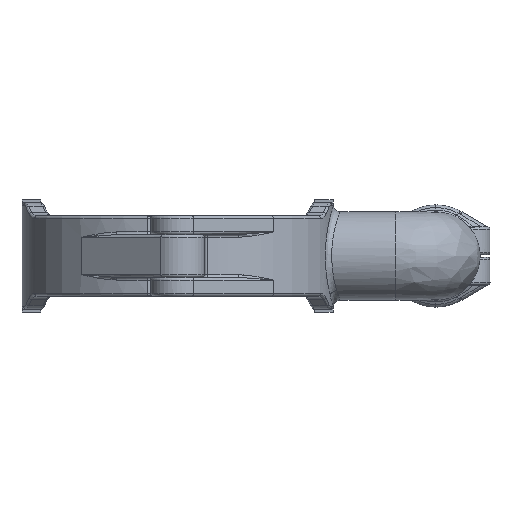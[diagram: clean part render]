
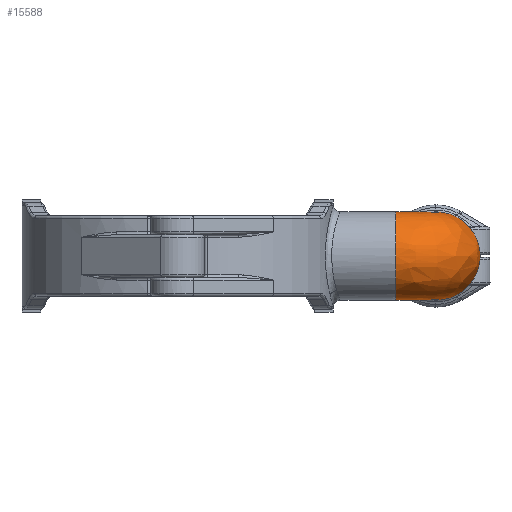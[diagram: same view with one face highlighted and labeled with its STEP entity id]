
A CAD part, front view. The second image highlights one B-rep face of the part: STEP entity #15588.
In plain terms, the highlighted free-form (B-spline) face has degree [3, 3] with [4, 7] control points.
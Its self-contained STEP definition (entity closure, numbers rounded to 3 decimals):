
#4429=CARTESIAN_POINT('',(75.274,84.244,11.997));
#4511=CARTESIAN_POINT('',(75.274,72.562,
0.));
#4512=DIRECTION('',(-1.,0.,0.));
#4513=DIRECTION('',(0.,0.,-1.));
#4514=AXIS2_PLACEMENT_3D('',#4511,#4512,#4513);
#4519=CARTESIAN_POINT('',(75.274,72.562,
0.));
#4520=DIRECTION('',(-1.,0.,0.));
#4521=DIRECTION('',(0.,0.,1.));
#4522=AXIS2_PLACEMENT_3D('',#4519,#4520,#4521);
#4527=CARTESIAN_POINT('',(75.274,84.244,11.997));
#4528=CARTESIAN_POINT('',(75.646,84.327,11.916));
#4529=CARTESIAN_POINT('',(76.339,84.576,11.787));
#4530=CARTESIAN_POINT('',(77.207,85.118,11.694));
#4531=CARTESIAN_POINT('',(77.967,85.886,11.696));
#4532=CARTESIAN_POINT('',(78.491,86.741,11.791));
#4533=CARTESIAN_POINT('',(78.733,87.421,11.918));
#4534=CARTESIAN_POINT('',(78.814,87.785,11.997));
#4539=CARTESIAN_POINT('',(90.496,87.784,
0.));
#4540=DIRECTION('',(0.,1.,0.));
#4541=DIRECTION('',(-0.698,0.,0.716));
#4542=AXIS2_PLACEMENT_3D('',#4539,#4540,#4541);
#4547=CARTESIAN_POINT('',(90.496,87.784,
0.));
#4548=DIRECTION('',(0.,1.,0.));
#4549=DIRECTION('',(0.,0.,1.));
#4550=AXIS2_PLACEMENT_3D('',#4547,#4548,#4549);
#4555=CARTESIAN_POINT('',(90.496,87.784,
0.));
#4556=DIRECTION('',(0.,1.,0.));
#4557=DIRECTION('',(0.,0.,-1.));
#4558=AXIS2_PLACEMENT_3D('',#4555,#4556,#4557);
#4563=CARTESIAN_POINT('',(78.814,87.785,-11.997));
#4564=CARTESIAN_POINT('',(78.731,87.413,-11.916));
#4565=CARTESIAN_POINT('',(78.482,86.719,-11.787));
#4566=CARTESIAN_POINT('',(77.94,85.851,-11.694));
#4567=CARTESIAN_POINT('',(77.172,85.092,-11.696));
#4568=CARTESIAN_POINT('',(76.317,84.567,-11.791));
#4569=CARTESIAN_POINT('',(75.637,84.325,-11.918));
#4570=CARTESIAN_POINT('',(75.274,84.244,-11.997));
#4575=CARTESIAN_POINT('',(75.274,72.562,
0.));
#4576=DIRECTION('',(-1.,0.,0.));
#4577=DIRECTION('',(0.,0.698,-0.716));
#4578=AXIS2_PLACEMENT_3D('',#4575,#4576,#4577);
#10175=CARTESIAN_POINT('',(75.274,72.562,
-16.745));
#10176=VERTEX_POINT('',#10175);
#10177=CARTESIAN_POINT('',(75.274,84.244,
-11.997));
#10178=VERTEX_POINT('',#10177);
#10181=VERTEX_POINT('',#4429);
#10182=CARTESIAN_POINT('',(75.274,72.562,16.745));
#10183=VERTEX_POINT('',#10182);
#10184=VERTEX_POINT('',#4534);
#10185=CARTESIAN_POINT('',(90.496,87.784,16.745));
#10186=VERTEX_POINT('',#10185);
#10187=CARTESIAN_POINT('',(90.496,87.784,-16.745));
#10188=VERTEX_POINT('',#10187);
#10189=CARTESIAN_POINT('',(78.814,87.785,
-11.997));
#10190=VERTEX_POINT('',#10189);
#15544=CARTESIAN_POINT('',(77.454,87.947,10.51));
#15545=CARTESIAN_POINT('',(89.321,88.833,25.271));
#15546=CARTESIAN_POINT('',(107.153,90.165,18.961));
#15547=CARTESIAN_POINT('',(107.153,90.165,
0.));
#15548=CARTESIAN_POINT('',(107.153,90.165,
-18.961));
#15549=CARTESIAN_POINT('',(89.321,88.833,
-25.271));
#15550=CARTESIAN_POINT('',(77.454,87.947,
-10.51));
#15551=CARTESIAN_POINT('',(77.561,86.514,10.51));
#15552=CARTESIAN_POINT('',(90.011,79.597,25.271));
#15553=CARTESIAN_POINT('',(108.717,69.204,18.961));
#15554=CARTESIAN_POINT('',(108.717,69.204,
0.));
#15555=CARTESIAN_POINT('',(108.717,69.204,
-18.961));
#15556=CARTESIAN_POINT('',(90.011,79.597,
-25.271));
#15557=CARTESIAN_POINT('',(77.561,86.514,
-10.51));
#15558=CARTESIAN_POINT('',(76.544,85.497,10.51));
#15559=CARTESIAN_POINT('',(83.462,73.047,25.271));
#15560=CARTESIAN_POINT('',(93.855,54.341,18.961));
#15561=CARTESIAN_POINT('',(93.855,54.341,
0.));
#15562=CARTESIAN_POINT('',(93.855,54.341,
-18.961));
#15563=CARTESIAN_POINT('',(83.462,73.047,
-25.271));
#15564=CARTESIAN_POINT('',(76.544,85.497,
-10.51));
#15565=CARTESIAN_POINT('',(75.111,85.604,10.51));
#15566=CARTESIAN_POINT('',(74.225,73.737,25.271));
#15567=CARTESIAN_POINT('',(72.894,55.905,18.961));
#15568=CARTESIAN_POINT('',(72.894,55.905,
0.));
#15569=CARTESIAN_POINT('',(72.894,55.905,
-18.961));
#15570=CARTESIAN_POINT('',(74.225,73.737,
-25.271));
#15571=CARTESIAN_POINT('',(75.111,85.604,
-10.51));
#15572=(BOUNDED_SURFACE()B_SPLINE_SURFACE(3,3,((#15544,#15545,#15546,#15547,
#15548,#15549,#15550),(#15551,#15552,#15553,#15554,#15555,#15556,#15557),
(#15558,#15559,#15560,#15561,#15562,#15563,#15564),(#15565,#15566,#15567,#15568,
#15569,#15570,#15571)),.UNSPECIFIED.,.F.,.F.,.F.)B_SPLINE_SURFACE_WITH_KNOTS((4,
4),(4,3,4),(0.,1.),(0.,1.,2.),.UNSPECIFIED.)GEOMETRIC_REPRESENTATION_ITEM()RATIONAL_B_SPLINE_SURFACE(((1.816,1.008,
1.008,1.816,1.008,1.008,
1.816),(1.395,0.775,0.775,
1.395,0.775,0.775,1.395),(
1.395,0.775,0.775,1.395,
0.775,0.775,1.395),(1.816,
1.008,1.008,1.816,1.008,
1.008,1.816)))REPRESENTATION_ITEM('')SURFACE());
#15573=ORIENTED_EDGE('',*,*,#15538,.T.);
#15574=ORIENTED_EDGE('',*,*,#15520,.T.);
#15576=ORIENTED_EDGE('',*,*,#15575,.T.);
#15578=ORIENTED_EDGE('',*,*,#15577,.T.);
#15580=ORIENTED_EDGE('',*,*,#15579,.T.);
#15582=ORIENTED_EDGE('',*,*,#15581,.T.);
#15584=ORIENTED_EDGE('',*,*,#15583,.T.);
#15585=ORIENTED_EDGE('',*,*,#15512,.T.);
#15586=EDGE_LOOP('',(#15573,#15574,#15576,#15578,#15580,#15582,#15584,#15585));
#15587=FACE_OUTER_BOUND('',#15586,.F.);
#4515=CIRCLE('',#4514,16.745);
#4523=CIRCLE('',#4522,16.745);
#4535=B_SPLINE_CURVE_WITH_KNOTS('',3,(#4527,#4528,#4529,#4530,#4531,#4532,#4533,
#4534),.UNSPECIFIED.,.F.,.F.,(4,1,1,1,1,4),(0.,0.2,0.4,0.6,0.8,1.),
.UNSPECIFIED.);
#4543=CIRCLE('',#4542,16.745);
#4551=CIRCLE('',#4550,16.745);
#4559=CIRCLE('',#4558,16.745);
#4571=B_SPLINE_CURVE_WITH_KNOTS('',3,(#4563,#4564,#4565,#4566,#4567,#4568,#4569,
#4570),.UNSPECIFIED.,.F.,.F.,(4,1,1,1,1,4),(0.,0.2,0.4,0.6,0.8,1.),
.UNSPECIFIED.);
#4579=CIRCLE('',#4578,16.745);
#15512=EDGE_CURVE('',#10178,#10176,#4579,.T.);
#15520=EDGE_CURVE('',#10183,#10181,#4523,.T.);
#15538=EDGE_CURVE('',#10176,#10183,#4515,.T.);
#15575=EDGE_CURVE('',#10181,#10184,#4535,.T.);
#15577=EDGE_CURVE('',#10184,#10186,#4543,.T.);
#15579=EDGE_CURVE('',#10186,#10188,#4551,.T.);
#15581=EDGE_CURVE('',#10188,#10190,#4559,.T.);
#15583=EDGE_CURVE('',#10190,#10178,#4571,.T.);
#15588=ADVANCED_FACE('',(#15587),#15572,.T.);
